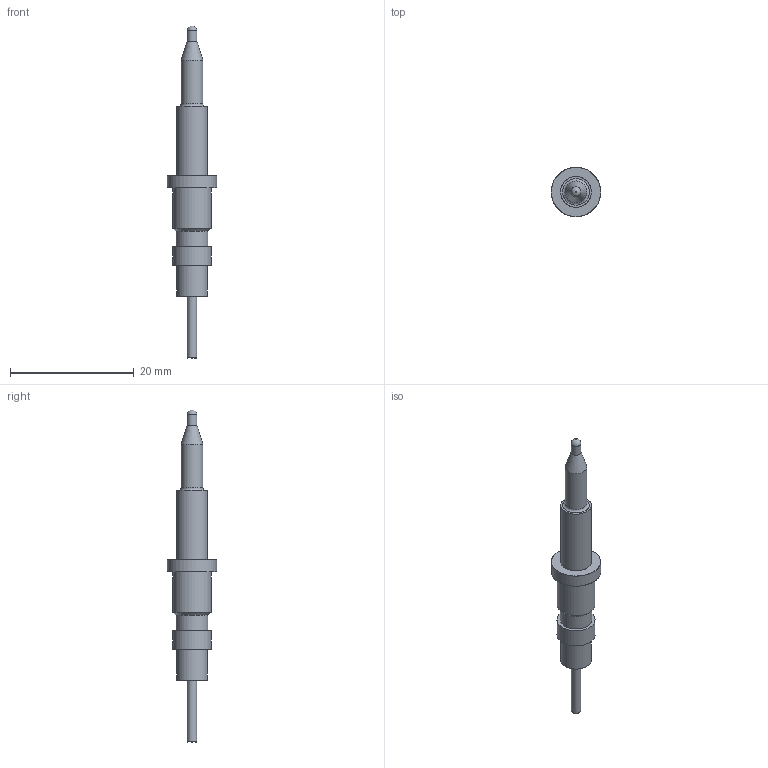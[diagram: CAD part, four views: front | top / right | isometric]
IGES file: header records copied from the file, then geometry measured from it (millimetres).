
Start section: --------------------------------------------------------------------- IGES file generated by CADlook_v12.0.  Visit http://www.cadlook.com for more information on CADlook translators and viewers. ---------------------------------------------------------------------
Global section: file name: D:\File_clienti\Brasile\Fischer\term-tripla-02-a1.igs; native system: Cimatron E 9.0; preprocessor: CADlook_v12.0; author: aquintaba; organization: None; date: 20100422.125410; units: millimetre
Bounding box: 8 x 8 x 53.7 mm (x, y, z)
Surface area: 806.9 mm2 (no closed solid volume)
Topology: 0 solids, 0 shells, 21 faces, 134 edges, 134 vertices
Faces by surface type: revolution 13, bspline 8
